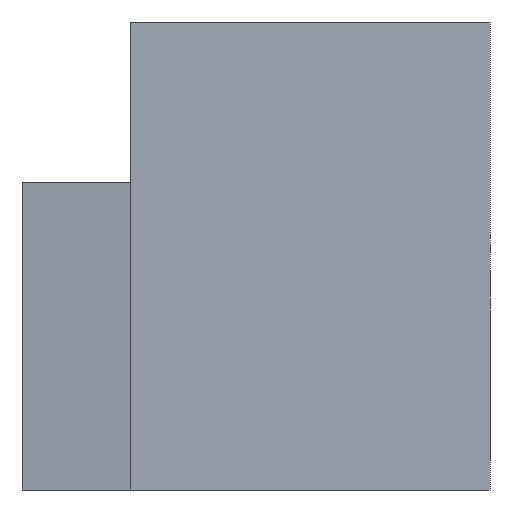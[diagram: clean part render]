
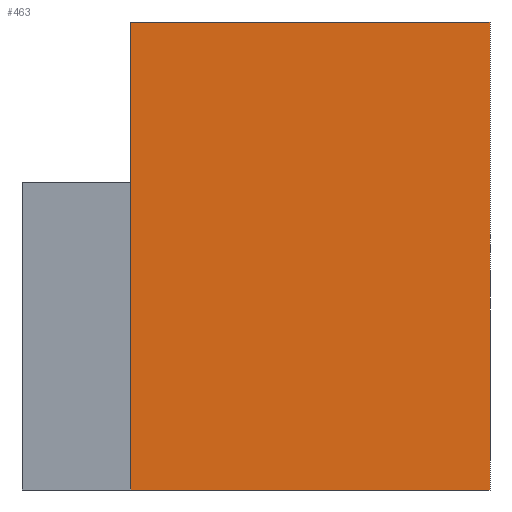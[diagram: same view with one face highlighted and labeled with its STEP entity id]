
A CAD part, front view. The second image highlights one B-rep face of the part: STEP entity #463.
In plain terms, the highlighted planar face has unit normal (0, -1, 0).
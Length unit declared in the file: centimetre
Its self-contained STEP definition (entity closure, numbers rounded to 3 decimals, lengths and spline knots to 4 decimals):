
#8 = CARTESIAN_POINT ( 'NONE',  ( 232.6564, 0., 0. ) ) ;
#11 = DIRECTION ( 'NONE',  ( 1., 0., 0. ) ) ;
#13 = VECTOR ( 'NONE', #482, 100. ) ;
#15 = VERTEX_POINT ( 'NONE', #333 ) ;
#32 = DIRECTION ( 'NONE',  ( 0., 0., 1. ) ) ;
#37 = DIRECTION ( 'NONE',  ( 0., 0., -1. ) ) ;
#68 = VERTEX_POINT ( 'NONE', #337 ) ;
#109 = CARTESIAN_POINT ( 'NONE',  ( 0., 0., 1000. ) ) ;
#120 = LINE ( 'NONE', #303, #524 ) ;
#132 = EDGE_CURVE ( 'NONE', #68, #15, #164, .T. ) ;
#164 = LINE ( 'NONE', #471, #492 ) ;
#199 = LINE ( 'NONE', #326, #532 ) ;
#206 = EDGE_CURVE ( 'NONE', #276, #544, #529, .T. ) ;
#260 = EDGE_CURVE ( 'NONE', #544, #68, #120, .T. ) ;
#276 = VERTEX_POINT ( 'NONE', #8 ) ;
#289 = EDGE_LOOP ( 'NONE', ( #306, #511, #358, #447 ) ) ;
#303 = CARTESIAN_POINT ( 'NONE',  ( 0., 0., 1000. ) ) ;
#304 = CARTESIAN_POINT ( 'NONE',  ( 232.6564, 0., 0. ) ) ;
#306 = ORIENTED_EDGE ( 'NONE', *, *, #206, .F. ) ;
#326 = CARTESIAN_POINT ( 'NONE',  ( 0., 0., 0. ) ) ;
#333 = CARTESIAN_POINT ( 'NONE',  ( 1000., 0., 0. ) ) ;
#337 = CARTESIAN_POINT ( 'NONE',  ( 1000., 0., 1000. ) ) ;
#353 = EDGE_CURVE ( 'NONE', #276, #15, #199, .T. ) ;
#358 = ORIENTED_EDGE ( 'NONE', *, *, #132, .F. ) ;
#369 = FACE_OUTER_BOUND ( 'NONE', #289, .T. ) ;
#392 = CARTESIAN_POINT ( 'NONE',  ( 232.6564, 0., 1000. ) ) ;
#424 = AXIS2_PLACEMENT_3D ( 'NONE', #109, #429, #32 ) ;
#429 = DIRECTION ( 'NONE',  ( 0., 1., 0. ) ) ;
#447 = ORIENTED_EDGE ( 'NONE', *, *, #260, .F. ) ;
#457 = DIRECTION ( 'NONE',  ( 1., 0., 0. ) ) ;
#463 = ADVANCED_FACE ( 'NONE', ( #369 ), #550, .F. ) ;
#471 = CARTESIAN_POINT ( 'NONE',  ( 1000., 0., 1000. ) ) ;
#482 = DIRECTION ( 'NONE',  ( 0., 0., 1. ) ) ;
#492 = VECTOR ( 'NONE', #37, 100. ) ;
#511 = ORIENTED_EDGE ( 'NONE', *, *, #353, .T. ) ;
#524 = VECTOR ( 'NONE', #11, 100. ) ;
#529 = LINE ( 'NONE', #304, #13 ) ;
#532 = VECTOR ( 'NONE', #457, 100. ) ;
#544 = VERTEX_POINT ( 'NONE', #392 ) ;
#550 = PLANE ( 'NONE',  #424 ) ;
